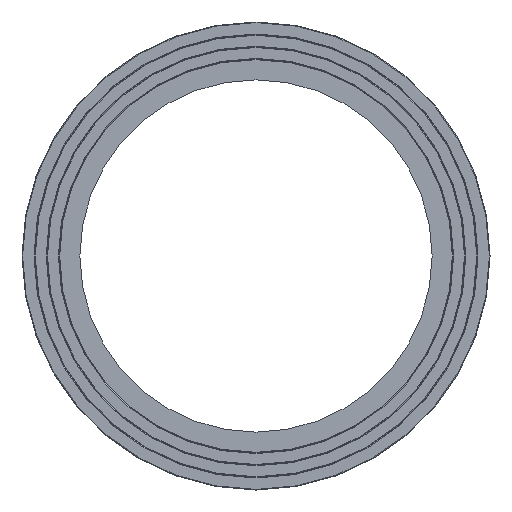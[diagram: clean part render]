
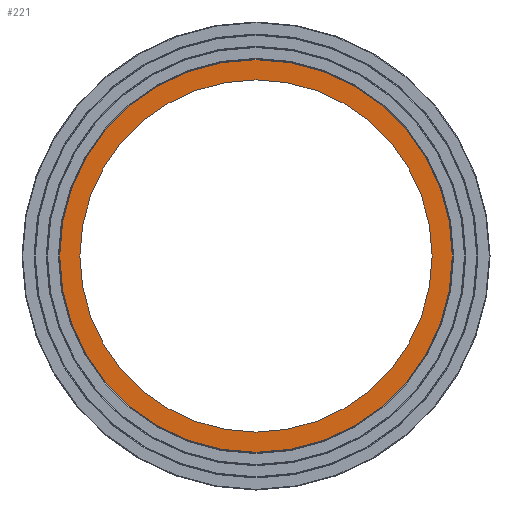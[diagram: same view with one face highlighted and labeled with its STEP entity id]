
A CAD part, left-side view. The second image highlights one B-rep face of the part: STEP entity #221.
In plain terms, the highlighted planar face has unit normal (-1, 0, 0).
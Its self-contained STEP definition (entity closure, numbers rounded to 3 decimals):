
#36=ORIENTED_EDGE('',*,*,#76,.F.);
#37=ORIENTED_EDGE('',*,*,#77,.T.);
#76=EDGE_CURVE('',#96,#96,#116,.T.);
#77=EDGE_CURVE('',#97,#97,#117,.T.);
#96=VERTEX_POINT('',#383);
#97=VERTEX_POINT('',#385);
#116=CIRCLE('',#257,418.1);
#117=CIRCLE('',#258,466.);
#136=EDGE_LOOP('',(#36));
#137=EDGE_LOOP('',(#37));
#176=FACE_BOUND('',#136,.T.);
#177=FACE_BOUND('',#137,.T.);
#215=PLANE('',#256);
#221=ADVANCED_FACE('',(#176,#177),#215,.F.);
#256=AXIS2_PLACEMENT_3D('',#381,#301,#302);
#257=AXIS2_PLACEMENT_3D('',#382,#303,#304);
#258=AXIS2_PLACEMENT_3D('',#384,#305,#306);
#301=DIRECTION('',(1.,0.,0.));
#302=DIRECTION('',(0.,0.,-1.));
#303=DIRECTION('',(-1.,0.,0.));
#304=DIRECTION('',(0.,0.,1.));
#305=DIRECTION('',(-1.,0.,0.));
#306=DIRECTION('',(0.,0.,1.));
#381=CARTESIAN_POINT('',(0.,0.,555.5));
#382=CARTESIAN_POINT('',(0.,0.,0.));
#383=CARTESIAN_POINT('',(0.,0.,418.1));
#384=CARTESIAN_POINT('',(0.,0.,0.));
#385=CARTESIAN_POINT('',(0.,0.,466.));
